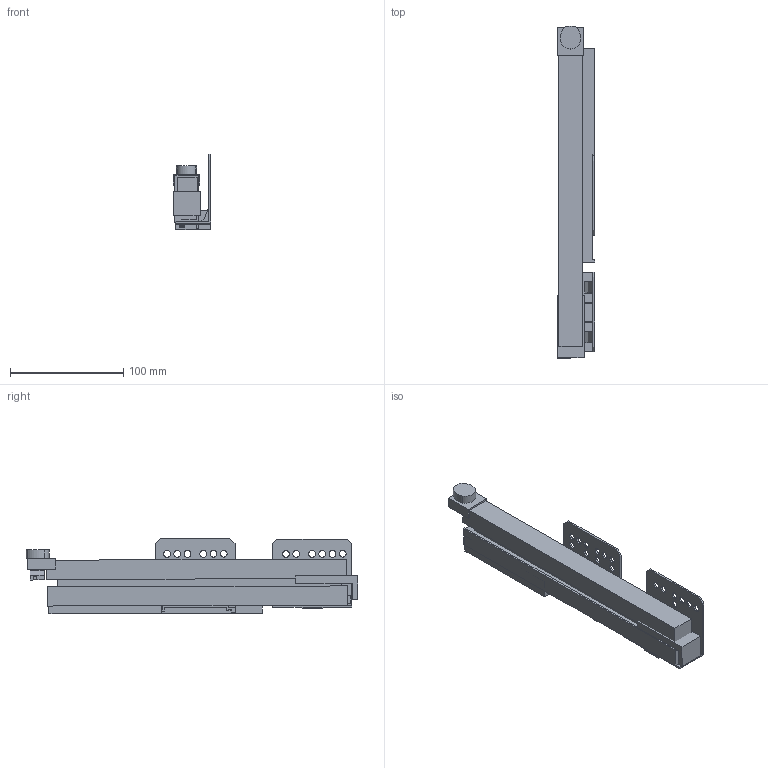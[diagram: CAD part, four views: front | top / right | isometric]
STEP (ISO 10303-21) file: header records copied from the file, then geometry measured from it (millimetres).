
FILE_DESCRIPTION (( 'STEP AP214' ), '1' );
FILE_NAME ('_IMOS Dynamic-XP VA 40kg NL275 RE Tipmatic.step', '2010-07-08T13:26:22', ( 'grass' ), ( '' ), 'SwSTEP 2.0', 'SolidWorks 2010', '' );
FILE_SCHEMA (( 'AUTOMOTIVE_DESIGN' ));
Length unit declared in the file: millimetre
Products named in the file (1): _IMOS Dynamic-XP VA 40kg NL275 RE Tipmatic
Bounding box: 33.14 x 293.02 x 66.67 mm (x, y, z)
Volume: 305862 mm3; surface area: 116606.5 mm2
Topology: 8 solids, 8 shells, 184 faces, 496 edges, 330 vertices
Faces by surface type: plane 137, cylinder 47
Entity records: 5917 total; most frequent: CARTESIAN_POINT 1011, ORIENTED_EDGE 992, DIRECTION 962, EDGE_CURVE 496, LINE 400, VECTOR 400, VERTEX_POINT 330, AXIS2_PLACEMENT_3D 281
